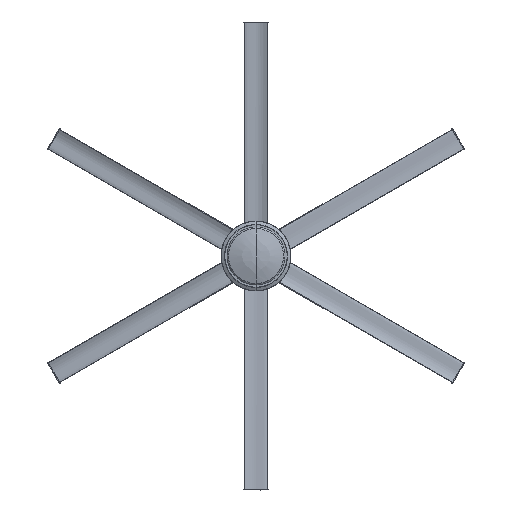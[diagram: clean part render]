
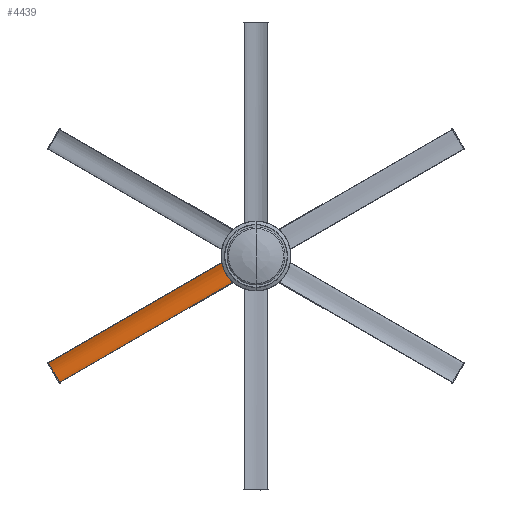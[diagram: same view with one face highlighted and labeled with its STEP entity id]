
A CAD part, top view. The second image highlights one B-rep face of the part: STEP entity #4439.
In plain terms, the highlighted free-form (B-spline) face has degree [3, 1] with [9, 2] control points.
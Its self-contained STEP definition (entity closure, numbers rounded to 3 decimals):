
#431=FACE_OUTER_BOUND('',#777,.T.);
#777=EDGE_LOOP('',(#3029,#3030,#3031,#3032));
#1161=B_SPLINE_CURVE_WITH_KNOTS('',3,(#11888,#11889,#11890,#11891,#11892,
#11893,#11894,#11895,#11896,#11897,#11898,#11899,#11900,#11901,#11902,#11903,
#11904,#11905,#11906),.UNSPECIFIED.,.F.,.F.,(4,3,3,3,3,3,4),(-79.73,
-69.281,-56.293,-41.534,-26.926,
-12.36,0.),.UNSPECIFIED.);
#1162=B_SPLINE_CURVE_WITH_KNOTS('',3,(#11909,#11910,#11911,#11912,#11913,
#11914,#11915,#11916,#11917,#11918,#11919,#11920,#11921,#11922,#11923,#11924,
#11925,#11926,#11927),.UNSPECIFIED.,.F.,.F.,(4,3,3,3,3,3,4),(-116.987,
-98.852,-77.479,-56.044,-34.389,-15.332,
0.),.UNSPECIFIED.);
#1489=VERTEX_POINT('',#11864);
#1490=VERTEX_POINT('',#11866);
#1491=VERTEX_POINT('',#11887);
#1492=VERTEX_POINT('',#11907);
#2055=EDGE_CURVE('',#1490,#1489,#5011,.T.);
#2057=EDGE_CURVE('',#1491,#1489,#1161,.T.);
#2058=EDGE_CURVE('',#1492,#1491,#5012,.T.);
#2059=EDGE_CURVE('',#1490,#1492,#1162,.T.);
#3029=ORIENTED_EDGE('',*,*,#2057,.F.);
#3030=ORIENTED_EDGE('',*,*,#2058,.F.);
#3031=ORIENTED_EDGE('',*,*,#2059,.F.);
#3032=ORIENTED_EDGE('',*,*,#2055,.T.);
#4358=B_SPLINE_SURFACE_WITH_KNOTS('',3,1,((#11869,#11870),(#11871,#11872),
(#11873,#11874),(#11875,#11876),(#11877,#11878),(#11879,#11880),(#11881,
#11882),(#11883,#11884),(#11885,#11886)),.UNSPECIFIED.,.F.,.F.,.F.,(4,1,
1,1,1,1,4),(2,2),(0.,0.131,0.294,0.479,
0.662,0.845,1.),(0.,1110.),.UNSPECIFIED.);
#4439=ADVANCED_FACE('',(#431),#4358,.F.);
#5011=LINE('',#11867,#5310);
#5012=LINE('',#11908,#5311);
#5310=VECTOR('',#6250,304.8);
#5311=VECTOR('',#6253,304.8);
#6250=DIRECTION('',(0.866,0.5,0.));
#6253=DIRECTION('',(0.866,0.5,0.));
#11864=CARTESIAN_POINT('',(-43.175,-81.219,408.567));
#11866=CARTESIAN_POINT('',(-844.248,-543.719,408.567));
#11867=CARTESIAN_POINT('',(-844.248,-543.719,408.567));
#11869=CARTESIAN_POINT('Ctrl Pts',(-91.424,2.351,424.737));
#11870=CARTESIAN_POINT('Ctrl Pts',(-1052.712,-552.649,
424.737));
#11871=CARTESIAN_POINT('Ctrl Pts',(-89.328,-1.28,
422.542));
#11872=CARTESIAN_POINT('Ctrl Pts',(-1050.616,-556.28,
422.542));
#11873=CARTESIAN_POINT('Ctrl Pts',(-83.939,-10.614,
417.692));
#11874=CARTESIAN_POINT('Ctrl Pts',(-1045.227,-565.614,
417.692));
#11875=CARTESIAN_POINT('Ctrl Pts',(-76.611,-23.306,
413.211));
#11876=CARTESIAN_POINT('Ctrl Pts',(-1037.899,-578.306,
413.211));
#11877=CARTESIAN_POINT('Ctrl Pts',(-70.467,-33.947,
411.045));
#11878=CARTESIAN_POINT('Ctrl Pts',(-1031.756,-588.947,
411.045));
#11879=CARTESIAN_POINT('Ctrl Pts',(-61.862,-48.851,
410.444));
#11880=CARTESIAN_POINT('Ctrl Pts',(-1023.151,-603.851,
410.444));
#11881=CARTESIAN_POINT('Ctrl Pts',(-54.429,-61.726,
410.444));
#11882=CARTESIAN_POINT('Ctrl Pts',(-1015.717,-616.726,410.444));
#11883=CARTESIAN_POINT('Ctrl Pts',(-48.263,-72.405,
411.104));
#11884=CARTESIAN_POINT('Ctrl Pts',(-1009.552,-627.405,
411.104));
#11885=CARTESIAN_POINT('Ctrl Pts',(-43.175,-81.219,
408.567));
#11886=CARTESIAN_POINT('Ctrl Pts',(-1004.463,-636.219,
408.567));
#11887=CARTESIAN_POINT('',(-91.424,2.351,424.737));
#11888=CARTESIAN_POINT('Ctrl Pts',(-91.424,2.351,424.737));
#11889=CARTESIAN_POINT('Ctrl Pts',(-89.328,-1.28,
422.542));
#11890=CARTESIAN_POINT('Ctrl Pts',(-86.925,-5.441,
420.38));
#11891=CARTESIAN_POINT('Ctrl Pts',(-84.7,-9.296,
418.635));
#11892=CARTESIAN_POINT('Ctrl Pts',(-81.934,-14.086,
416.466));
#11893=CARTESIAN_POINT('Ctrl Pts',(-79.442,-18.402,
414.943));
#11894=CARTESIAN_POINT('Ctrl Pts',(-77.235,-22.225,
413.821));
#11895=CARTESIAN_POINT('Ctrl Pts',(-74.727,-26.569,412.547));
#11896=CARTESIAN_POINT('Ctrl Pts',(-72.586,-30.277,
411.792));
#11897=CARTESIAN_POINT('Ctrl Pts',(-70.069,-34.637,
411.315));
#11898=CARTESIAN_POINT('Ctrl Pts',(-67.577,-38.954,410.843));
#11899=CARTESIAN_POINT('Ctrl Pts',(-64.715,-43.91,
410.643));
#11900=CARTESIAN_POINT('Ctrl Pts',(-61.978,-48.651,
410.543));
#11901=CARTESIAN_POINT('Ctrl Pts',(-59.248,-53.38,
410.444));
#11902=CARTESIAN_POINT('Ctrl Pts',(-56.641,-57.895,
410.444));
#11903=CARTESIAN_POINT('Ctrl Pts',(-53.64,-63.093,
410.637));
#11904=CARTESIAN_POINT('Ctrl Pts',(-51.094,-67.503,410.801));
#11905=CARTESIAN_POINT('Ctrl Pts',(-48.263,-72.405,411.104));
#11906=CARTESIAN_POINT('Ctrl Pts',(-43.175,-81.219,408.567));
#11907=CARTESIAN_POINT('',(-892.497,-460.149,424.737));
#11908=CARTESIAN_POINT('',(-892.497,-460.149,424.737));
#11909=CARTESIAN_POINT('Ctrl Pts',(-844.248,-543.719,408.567));
#11910=CARTESIAN_POINT('Ctrl Pts',(-849.337,-534.905,
411.104));
#11911=CARTESIAN_POINT('Ctrl Pts',(-852.167,-530.003,410.801));
#11912=CARTESIAN_POINT('Ctrl Pts',(-854.714,-525.593,
410.637));
#11913=CARTESIAN_POINT('Ctrl Pts',(-857.715,-520.395,410.444));
#11914=CARTESIAN_POINT('Ctrl Pts',(-860.321,-515.88,
410.444));
#11915=CARTESIAN_POINT('Ctrl Pts',(-863.051,-511.151,
410.543));
#11916=CARTESIAN_POINT('Ctrl Pts',(-865.789,-506.41,
410.643));
#11917=CARTESIAN_POINT('Ctrl Pts',(-868.65,-501.454,
410.843));
#11918=CARTESIAN_POINT('Ctrl Pts',(-871.142,-497.137,
411.315));
#11919=CARTESIAN_POINT('Ctrl Pts',(-873.66,-492.777,
411.792));
#11920=CARTESIAN_POINT('Ctrl Pts',(-875.801,-489.069,
412.547));
#11921=CARTESIAN_POINT('Ctrl Pts',(-878.309,-484.725,
413.821));
#11922=CARTESIAN_POINT('Ctrl Pts',(-880.516,-480.902,
414.943));
#11923=CARTESIAN_POINT('Ctrl Pts',(-883.008,-476.586,
416.466));
#11924=CARTESIAN_POINT('Ctrl Pts',(-885.773,-471.796,
418.635));
#11925=CARTESIAN_POINT('Ctrl Pts',(-887.999,-467.941,420.38));
#11926=CARTESIAN_POINT('Ctrl Pts',(-890.401,-463.78,422.542));
#11927=CARTESIAN_POINT('Ctrl Pts',(-892.497,-460.149,424.737));
